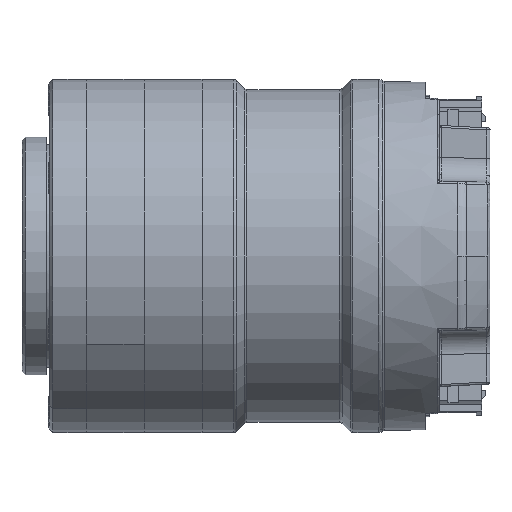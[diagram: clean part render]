
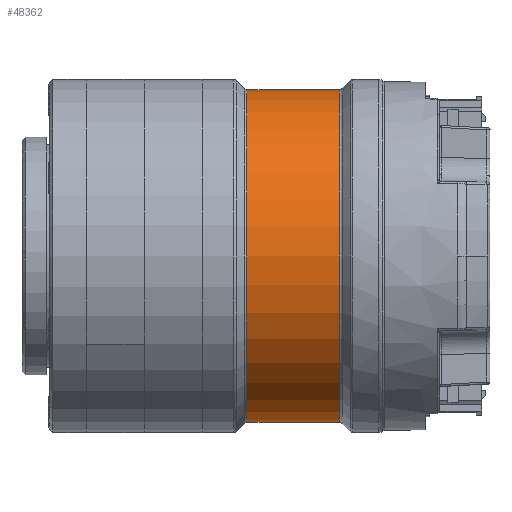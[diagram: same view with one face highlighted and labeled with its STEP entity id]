
A CAD part, left-side view. The second image highlights one B-rep face of the part: STEP entity #48362.
In plain terms, the highlighted cylindrical face has radius 24.5 mm (diameter 49 mm), a partial arc.
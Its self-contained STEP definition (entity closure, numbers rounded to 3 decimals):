
#2860 = AXIS2_PLACEMENT_3D ( 'NONE', #71032, #27208, #33106 ) ;
#6249 = DIRECTION ( 'NONE',  ( 0., -1., 0. ) ) ;
#9768 = CARTESIAN_POINT ( 'NONE',  ( 0., -24.793, -24.5 ) ) ;
#13912 = FACE_OUTER_BOUND ( 'NONE', #45524, .T. ) ;
#14687 = AXIS2_PLACEMENT_3D ( 'NONE', #76850, #6249, #57656 ) ;
#16513 = ORIENTED_EDGE ( 'NONE', *, *, #31697, .F. ) ;
#19701 = CIRCLE ( 'NONE', #14687, 24.5 ) ;
#21160 = EDGE_CURVE ( 'NONE', #61856, #50984, #39287, .T. ) ;
#21359 = DIRECTION ( 'NONE',  ( 0., -1., 0. ) ) ;
#25525 = VECTOR ( 'NONE', #30364, 1000. ) ;
#27208 = DIRECTION ( 'NONE',  ( 0., 1., 0. ) ) ;
#28850 = VECTOR ( 'NONE', #21359, 1000. ) ;
#30364 = DIRECTION ( 'NONE',  ( 0., -1., 0. ) ) ;
#31697 = EDGE_CURVE ( 'NONE', #43283, #50984, #73409, .T. ) ;
#33106 = DIRECTION ( 'NONE',  ( 1., 0., 0. ) ) ;
#39287 = CIRCLE ( 'NONE', #2860, 24.5 ) ;
#42824 = CYLINDRICAL_SURFACE ( 'NONE', #58884, 24.5 ) ;
#42846 = ORIENTED_EDGE ( 'NONE', *, *, #21160, .T. ) ;
#43283 = VERTEX_POINT ( 'NONE', #47293 ) ;
#43680 = EDGE_CURVE ( 'NONE', #43283, #74665, #19701, .T. ) ;
#44038 = CARTESIAN_POINT ( 'NONE',  ( 0., -11.107, -24.5 ) ) ;
#44514 = EDGE_CURVE ( 'NONE', #74665, #61856, #55251, .T. ) ;
#45524 = EDGE_LOOP ( 'NONE', ( #16513, #60172, #66308, #42846 ) ) ;
#46162 = DIRECTION ( 'NONE',  ( 0., -1., 0. ) ) ;
#47293 = CARTESIAN_POINT ( 'NONE',  ( 0., -11.107, 24.5 ) ) ;
#48362 = ADVANCED_FACE ( 'NONE', ( #13912 ), #42824, .T. ) ;
#50984 = VERTEX_POINT ( 'NONE', #68030 ) ;
#53047 = CARTESIAN_POINT ( 'NONE',  ( 0., -12., 24.5 ) ) ;
#55251 = LINE ( 'NONE', #68320, #25525 ) ;
#57656 = DIRECTION ( 'NONE',  ( 1., 0., 0. ) ) ;
#58884 = AXIS2_PLACEMENT_3D ( 'NONE', #66044, #46162, #78319 ) ;
#60172 = ORIENTED_EDGE ( 'NONE', *, *, #43680, .T. ) ;
#61856 = VERTEX_POINT ( 'NONE', #9768 ) ;
#66044 = CARTESIAN_POINT ( 'NONE',  ( 0., -12., 0. ) ) ;
#66308 = ORIENTED_EDGE ( 'NONE', *, *, #44514, .T. ) ;
#68030 = CARTESIAN_POINT ( 'NONE',  ( 0., -24.793, 24.5 ) ) ;
#68320 = CARTESIAN_POINT ( 'NONE',  ( 0., -12., -24.5 ) ) ;
#71032 = CARTESIAN_POINT ( 'NONE',  ( 0., -24.793, 0. ) ) ;
#73409 = LINE ( 'NONE', #53047, #28850 ) ;
#74665 = VERTEX_POINT ( 'NONE', #44038 ) ;
#76850 = CARTESIAN_POINT ( 'NONE',  ( 0., -11.107, 0. ) ) ;
#78319 = DIRECTION ( 'NONE',  ( 0., 0., -1. ) ) ;
